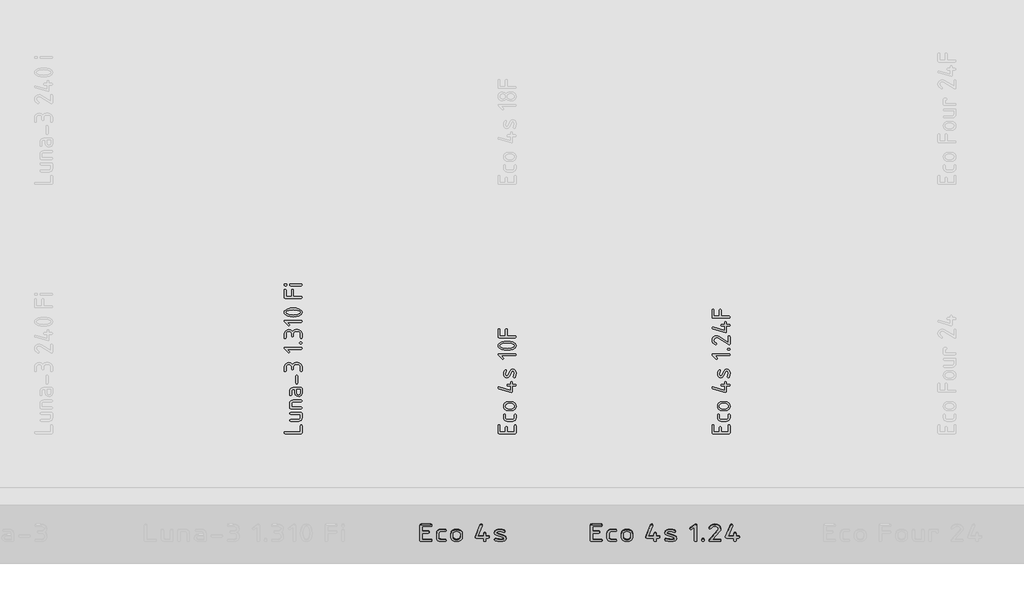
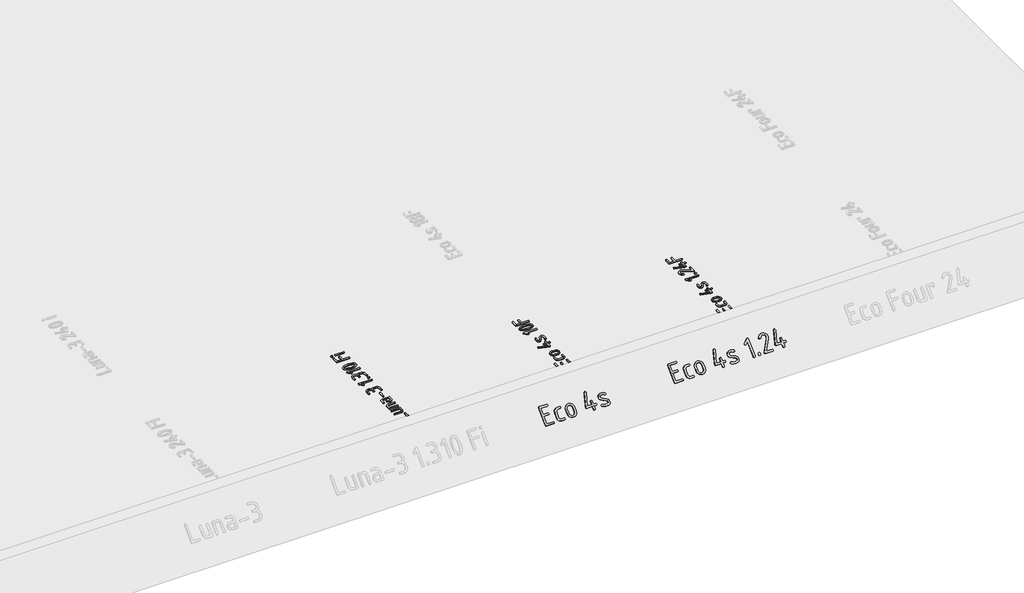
# One storey, part 6 of 37: 5 proxies.
"""IFC4 building model written with IfcOpenShell, lengths in millimetres."""

from ifc_helpers import new_model, si_unit, frame, origin, origin_with_axes, place, context, project, spatial, polyline, outline, extrude, element, save

model = new_model("IFC4")

# Units and contexts
model_context = context("Model", 3, world=origin())
ifc_project = project(units=[si_unit("LENGTHUNIT", "METRE", prefix="MILLI")], contexts=[model_context])

# Site, building, storey
site = spatial("IfcSite", under=ifc_project)
building = spatial("IfcBuilding", under=site)
storey = spatial("IfcBuildingStorey", under=building, Name="01_Стартовый вид_Площадка", Elevation=0.0)

# Proxies
placement = place(None, origin())
element("IfcBuildingElementProxy", 1, Name="150 мм", ObjectType="150 мм", at=placement, inside=storey, context=model_context, shape_type="SweptSolid", body=[
    extrude(outline(polyline([(15186.8818775, -17138.8871108), (15181.2187379, -17136.9694339), (15179.3310247, -17131.2164032), (15181.20875, -17125.4633725), (15186.8419259, -17123.5456956), (15314.846859, -17123.5456956), (15314.846859, -17071.0492905), (15316.7645359, -17065.4161146), (15322.5175666, -17063.5383893), (15328.2705973, -17065.4161146), (15330.1882742, -17071.0492905), (15330.1882742, -17131.2164032), (15328.300561, -17136.9694339), (15322.6374214, -17138.8871108), (15186.8818775, -17138.8871108)])), origin_with_axes(), (0.0, 0.0, 1.0), 10.0),
    extrude(outline(polyline([(15232.8262199, -16959.9039335), (15322.7173246, -16959.9039335), (15328.3205368, -16961.761683), (15330.1882742, -16967.3349315), (15330.1882742, -17004.4100182), (15328.0208998, -17015.9060917), (15321.5187765, -17025.4645125), (15311.8604767, -17031.9067083), (15300.2245726, -17034.0541069), (15232.8262199, -17034.0541069), (15227.2230077, -17032.13643), (15225.3552703, -17026.3833993), (15227.2230077, -17020.6303686), (15232.8262199, -17018.7126917), (15299.9449114, -17018.7126917), (15310.4322069, -17014.4378703), (15314.846859, -17004.2102602), (15314.846859, -16975.2453487), (15232.8262199, -16975.2453487), (15227.2230077, -16973.3276718), (15225.3552703, -16967.5746411), (15227.2230077, -16961.8216104), (15232.8262199, -16959.9039335)])), origin_with_axes(), (0.0, 0.0, 1.0), 10.0),
    extrude(outline(polyline([(15322.7173246, -16929.2211031), (15232.8262199, -16929.2211031), (15227.2230077, -16927.3633536), (15225.3552703, -16921.7901051), (15225.3552703, -16884.7150184), (15227.5226447, -16873.2189449), (15234.024768, -16863.6605241), (15243.6830678, -16857.2183282), (15255.3189719, -16855.0709296), (15322.7173246, -16855.0709296), (15328.3205368, -16856.9886065), (15330.1882742, -16862.7416372), (15328.3205368, -16868.4946679), (15322.7173246, -16870.4123448), (15255.5986331, -16870.4123448), (15244.9914827, -16874.5872872), (15240.6966855, -16884.9147764), (15240.6966855, -16913.8796879), (15322.7173246, -16913.8796879), (15328.3205368, -16915.7973648), (15330.1882742, -16921.5503955), (15328.3205368, -16927.3034262), (15322.7173246, -16929.2211031)])), origin_with_axes(), (0.0, 0.0, 1.0), 10.0),
    extrude(outline(polyline([(15330.1882742, -16795.5829941), (15327.9659663, -16807.1989224), (15321.2990427, -16816.877198), (15311.4060272, -16823.409285), (15299.5054438, -16825.5866473), (15284.0441738, -16821.5914871), (15272.6280035, -16810.8345182), (15268.8226134, -16795.5829941), (15268.8226134, -16765.579341), (15254.7596494, -16765.579341), (15244.7517731, -16769.894114), (15240.6966855, -16780.5611918), (15240.6966855, -16810.5648449), (15238.7790086, -16816.1980208), (15233.0259779, -16818.0757461), (15227.2729472, -16816.1980208), (15225.3552703, -16810.5648449), (15225.3552703, -16780.5611918), (15227.5226447, -16768.8803421), (15234.024768, -16759.0872056), (15243.6830678, -16752.4502457), (15255.3189719, -16750.2379258), (15322.7173246, -16750.2379258), (15328.3205368, -16752.1556027), (15330.1882742, -16757.9086334), (15330.1882742, -16795.5829941)]), holes=[polyline([(15284.1640286, -16765.579341), (15284.1640286, -16795.5829941), (15288.638608, -16806.1901445), (15299.5054438, -16810.5648449), (15310.3123521, -16806.1302171), (15314.846859, -16795.5829941), (15314.846859, -16765.579341), (15284.1640286, -16765.579341)])]), origin_with_axes(), (0.0, 0.0, 1.0), 10.0),
    extrude(outline(polyline([(15291.8347362, -16652.3964523), (15291.8347362, -16712.4037586), (15289.9170593, -16718.0369345), (15284.1640286, -16719.9146598), (15278.4109979, -16718.0369345), (15276.493321, -16712.4037586), (15276.493321, -16652.3964523), (15278.4109979, -16646.7632764), (15284.1640286, -16644.8855511), (15289.9170593, -16646.7632764), (15291.8347362, -16652.3964523)])), origin_with_axes(), (0.0, 0.0, 1.0), 10.0),
    extrude(outline(polyline([(15256.0381007, -16578.4060852), (15256.0381007, -16593.387936), (15254.1204238, -16599.0211119), (15248.3673931, -16600.8988372), (15242.6143624, -16599.0211119), (15240.6966855, -16593.387936), (15240.6966855, -16578.4060852), (15239.0237122, -16569.7016299), (15234.0047922, -16562.4454202), (15226.5787881, -16557.546355), (15217.6845627, -16555.9133333), (15208.8402768, -16557.5613369), (15201.4042849, -16562.5053476), (15196.3554012, -16569.7765392), (15194.6724399, -16578.4060852), (15194.6724399, -16608.4097384), (15192.754763, -16614.0429143), (15187.0017323, -16615.9206396), (15181.2487016, -16614.0429143), (15179.3310247, -16608.4097384), (15179.3310247, -16578.4060852), (15182.1476127, -16563.9386113), (15190.5973765, -16551.6984393), (15203.002349, -16543.3535484), (15217.6845627, -16540.5719181), (15234.8837274, -16544.3273687), (15248.3673931, -16555.5937205), (15261.4415549, -16544.3273687), (15278.1313367, -16540.5719181), (15292.9933326, -16540.5719181), (15307.3059941, -16543.3685302), (15319.3214384, -16551.7583667), (15327.4715652, -16564.0135206), (15330.1882742, -16578.4060852), (15330.1882742, -16608.4097384), (15328.2705973, -16614.0429143), (15322.5175666, -16615.9206396), (15316.7645359, -16614.0429143), (15314.846859, -16608.4097384), (15314.846859, -16578.4060852), (15313.2438009, -16569.7016299), (15308.4346268, -16562.4454202), (15301.3182477, -16557.546355), (15292.7935746, -16555.9133333), (15278.0913851, -16555.9133333), (15269.6166515, -16557.5613369), (15262.4902844, -16562.5053476), (15257.6511466, -16569.7765392), (15256.0381007, -16578.4060852)])), origin_with_axes(), (0.0, 0.0, 1.0), 10.0),
    extrude(outline(polyline([(15205.0598565, -16428.0682066), (15222.3589002, -16445.3272987), (15224.5162867, -16450.5609586), (15222.6385614, -16456.1941345), (15217.0053855, -16458.0718598), (15211.7717256, -16455.8745217), (15182.2874433, -16426.5500457), (15179.3310247, -16420.397499), (15181.2187379, -16414.6444683), (15186.8818775, -16412.7267914), (15322.6374214, -16412.7267914), (15328.300561, -16414.6444683), (15330.1882742, -16420.397499), (15328.300561, -16426.1505297), (15322.6374214, -16428.0682066), (15205.0598565, -16428.0682066)])), origin_with_axes(), (0.0, 0.0, 1.0), 10.0),
    extrude(outline(polyline([(15314.846859, -16382.043961), (15309.0938283, -16380.1262841), (15307.1761514, -16374.3732534), (15309.0938283, -16368.6202227), (15314.846859, -16366.7025458), (15322.5175666, -16366.7025458), (15328.2705973, -16368.6202227), (15330.1882742, -16374.3732534), (15328.2705973, -16380.1262841), (15322.5175666, -16382.043961), (15314.846859, -16382.043961)])), origin_with_axes(), (0.0, 0.0, 1.0), 10.0),
    extrude(outline(polyline([(15256.0381007, -16299.7037092), (15256.0381007, -16314.6855599), (15254.1204238, -16320.3187358), (15248.3673931, -16322.1964611), (15242.6143624, -16320.3187358), (15240.6966855, -16314.6855599), (15240.6966855, -16299.7037092), (15239.0237122, -16290.9992539), (15234.0047922, -16283.7430441), (15226.5787881, -16278.8439789), (15217.6845627, -16277.2109572), (15208.8402768, -16278.8589608), (15201.4042849, -16283.8029715), (15196.3554012, -16291.0741631), (15194.6724399, -16299.7037092), (15194.6724399, -16329.7073623), (15192.754763, -16335.3405382), (15187.0017323, -16337.2182635), (15181.2487016, -16335.3405382), (15179.3310247, -16329.7073623), (15179.3310247, -16299.7037092), (15182.1476127, -16285.2362353), (15190.5973765, -16272.9960632), (15203.002349, -16264.6511723), (15217.6845627, -16261.869542), (15234.8837274, -16265.6249926), (15248.3673931, -16276.8913444), (15261.4415549, -16265.6249926), (15278.1313367, -16261.869542), (15292.9933326, -16261.869542), (15307.3059941, -16264.6661541), (15319.3214384, -16273.0559906), (15327.4715652, -16285.3111445), (15330.1882742, -16299.7037092), (15330.1882742, -16329.7073623), (15328.2705973, -16335.3405382), (15322.5175666, -16337.2182635), (15316.7645359, -16335.3405382), (15314.846859, -16329.7073623), (15314.846859, -16299.7037092), (15313.2438009, -16290.9992539), (15308.4346268, -16283.7430441), (15301.3182477, -16278.8439789), (15292.7935746, -16277.2109572), (15278.0913851, -16277.2109572), (15269.6166515, -16278.8589608), (15262.4902844, -16283.8029715), (15257.6511466, -16291.0741631), (15256.0381007, -16299.7037092)])), origin_with_axes(), (0.0, 0.0, 1.0), 10.0),
    extrude(outline(polyline([(15205.0598565, -16200.5038812), (15222.3589002, -16217.7629733), (15224.5162867, -16222.9966332), (15222.6385614, -16228.6298091), (15217.0053855, -16230.5075344), (15211.7717256, -16228.3101962), (15182.2874433, -16198.9857203), (15179.3310247, -16192.8331736), (15181.2187379, -16187.0801429), (15186.8818775, -16185.162466), (15322.6374214, -16185.162466), (15328.300561, -16187.0801429), (15330.1882742, -16192.8331736), (15328.300561, -16198.5862043), (15322.6374214, -16200.5038812), (15205.0598565, -16200.5038812)])), origin_with_axes(), (0.0, 0.0, 1.0), 10.0),
    extrude(outline(polyline([(15254.7596494, -16080.3294621), (15279.8991951, -16081.9574899), (15301.3831691, -16086.8415733), (15322.9869979, -16099.2565336), (15328.3879551, -16107.6139094), (15330.1882742, -16117.4045489), (15328.395446, -16127.1951884), (15323.0169616, -16135.5525641), (15301.5030239, -16147.9675245), (15279.9890862, -16152.8516078), (15254.7596494, -16154.4796356), (15229.5302127, -16152.8516078), (15208.016275, -16147.9675245), (15186.5023373, -16135.5525641), (15181.1238529, -16127.1951884), (15179.3310247, -16117.4045489), (15181.1313438, -16107.6139094), (15186.532301, -16099.2565336), (15208.1361298, -16086.8415733), (15229.6201038, -16081.9574899), (15254.7596494, -16080.3294621)]), holes=[polyline([(15254.7596494, -16095.6708773), (15219.6022396, -16099.5062311), (15200.9048898, -16106.8972775), (15194.6724399, -16117.4045489), (15200.9348535, -16127.8219291), (15219.7220944, -16135.1830118), (15254.7596494, -16139.1382204), (15289.9170593, -16135.3028666), (15308.614409, -16127.9118202), (15314.846859, -16117.4045489), (15308.614409, -16106.8972775), (15289.9170593, -16099.5062311), (15254.7596494, -16095.6708773)])]), origin_with_axes(), (0.0, 0.0, 1.0), 10.0),
    extrude(outline(polyline([(15322.6374214, -15998.5085811), (15186.8818775, -15998.5085811), (15181.2187379, -15996.5909042), (15179.3310247, -15990.8378735), (15179.3310247, -15930.6707608), (15181.2487016, -15925.0375849), (15187.0017323, -15923.1598596), (15192.754763, -15925.0375849), (15194.6724399, -15930.6707608), (15194.6724399, -15983.1671659), (15240.6966855, -15983.1671659), (15240.6966855, -15930.6707608), (15242.6143624, -15925.0375849), (15248.3673931, -15923.1598596), (15254.1204238, -15925.0375849), (15256.0381007, -15930.6707608), (15256.0381007, -15983.1671659), (15322.7572762, -15983.1671659), (15328.3305247, -15985.0848428), (15330.1882742, -15990.8378735), (15328.300561, -15996.5909042), (15322.6374214, -15998.5085811)])), origin_with_axes(), (0.0, 0.0, 1.0), 10.0),
    extrude(outline(polyline([(15194.3528271, -15893.6755772), (15186.8419259, -15893.6755772), (15181.20875, -15891.7579003), (15179.3310247, -15886.0048696), (15181.20875, -15880.2518389), (15186.8419259, -15878.334162), (15194.3528271, -15878.334162), (15199.986003, -15880.2518389), (15201.8637283, -15886.0048696), (15199.986003, -15891.7579003), (15194.3528271, -15893.6755772)])), origin_with_axes(), (0.0, 0.0, 1.0), 10.0),
    extrude(outline(polyline([(15232.6664135, -15893.6755772), (15227.0632013, -15891.7579003), (15225.1954639, -15886.0048696), (15227.0632013, -15880.2518389), (15232.6664135, -15878.334162), (15322.677373, -15878.334162), (15328.3105489, -15880.2518389), (15330.1882742, -15886.0048696), (15328.3105489, -15891.7579003), (15322.677373, -15893.6755772), (15232.6664135, -15893.6755772)])), origin_with_axes(), (0.0, 0.0, 1.0), 10.0),
])
element("IfcBuildingElementProxy", 2, Name="200мм", ObjectType="200мм", at=placement, inside=storey, context=model_context, shape_type="SweptSolid", body=[
    extrude(outline(polyline([(7.9720216, 0.0), (179.4166361, -58.0553192), (185.7484839, -62.8989575), (185.6722013, -70.971688), (159.9419745, -146.956264), (155.1111501, -153.2502709), (147.0426909, -153.1613748), (140.5802352, -148.3297495), (140.5674213, -140.3955688), (163.0173005, -74.0982693), (104.8936407, -54.4161835), (88.8506906, -101.7930207), (84.03268, -108.0491867), (75.968492, -107.9476769), (69.501765, -103.1286652), (69.4761373, -95.2323254), (85.5190874, -47.8554882), (11.2499667, -22.7061563), (-11.1999125, -89.0034557), (-16.0307369, -95.2974626), (-24.0991961, -95.2085665), (-30.5616518, -90.3769412), (-30.5744657, -82.4427605), (-4.8442389, -6.4581844), (0.0, 0.0), (7.9720216, 0.0)])), frame((17757.3251043, -18038.1466026, 93.5274722), z_axis=(0.0, -0.7071067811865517, 0.7071067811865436), x_axis=(-0.32073452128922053, 0.6697497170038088, 0.6697497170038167)), (0.0, 0.0, 1.0), 10.0),
    extrude(outline(polyline([(15.150878, 0.0), (69.918334, 22.8458531), (80.4980469, 33.6657617), (80.467285, 48.8903842), (68.9008028, 76.6182523), (68.3843818, 84.4977287), (74.505091, 89.749238), (82.5432932, 90.4040175), (87.7793513, 84.493304), (99.3458335, 56.7654358), (102.6619405, 41.3096073), (99.6902547, 25.914741), (91.2197, 12.7713241), (78.0392002, 4.0698443), (22.7801153, -18.9810883), (7.3232334, -22.2254877), (-7.9764678, -18.9976632), (-21.0073016, -10.2781337), (-29.6575818, 2.9525826), (-41.224064, 30.6804508), (-41.7404849, 38.5599271), (-35.6197758, 43.8114364), (-27.5815735, 44.4662159), (-22.3455154, 38.5555025), (-10.7790332, 10.8276343), (0.0, 0.0), (15.150878, 0.0)])), frame((17920.8336944, -17959.6397171, 172.0343577), z_axis=(0.0, -0.7071067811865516, 0.7071067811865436), x_axis=(-0.3849898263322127, -0.6526035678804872, -0.6526035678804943)), (0.0, 0.0, 1.0), 10.0),
    extrude(outline(polyline([(19.5277268, -1e-07), (58.7885529, -7.3971648), (76.977393, -14.5033742), (90.8173496, -28.1486773), (98.6171829, -45.8732873), (98.6856532, -65.2174179), (91.5847543, -83.4140342), (77.9948347, -97.0679287), (60.1996699, -104.6308689), (40.4830361, -104.5546223), (1.22221, -97.1574576), (-16.96663, -90.0512481), (-30.8065866, -76.405945), (-38.6064199, -58.6813349), (-38.6748902, -39.3372044), (-31.5717163, -21.3442893), (-17.8566171, -7.6733255), (0.0, 0.0), (19.5277268, -1e-07)]), holes=[polyline([(5.5853838, -77.1644064), (44.8985577, -84.5714339), (56.5989581, -84.6144501), (67.3060997, -80.1473937), (75.5187711, -72.1612621), (79.7357612, -61.647053), (79.6340604, -50.3191558), (74.8906592, -39.8919601), (66.5432132, -31.8348129), (55.6293779, -27.6170623), (16.316204, -20.2100347), (4.5148066, -20.1276624), (-6.1812393, -24.5358276), (-14.3509513, -32.5097259), (-18.5733473, -43.1245527), (-18.4716465, -54.4524499), (-13.7282453, -64.8796458), (-5.3677123, -72.9392586), (5.5853838, -77.1644064)])]), frame((18017.4832784, -18018.2020682, 113.4720067), z_axis=(0.0, -0.7071067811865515, 0.7071067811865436), x_axis=(-0.1851531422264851, 0.6948806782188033, 0.6948806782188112)), (0.0, 0.0, 1.0), 10.0),
    extrude(outline(polyline([(7.9171849, 0.0), (10.3934109, -1.1623101), (130.7514682, -83.4504991), (134.8406101, -88.4913876), (134.6089902, -94.9556849), (129.871313, -101.2936442), (121.9920295, -101.306278), (119.4147331, -99.941827), (10.4776362, -25.334992), (-4.3291842, -69.7554535), (24.1726819, -79.2560755), (30.4516834, -84.0442879), (30.3885143, -92.1088673), (25.6003019, -98.5984322), (17.7041733, -98.6616013), (-10.7976929, -89.1609793), (-17.1314409, -108.1622233), (-21.9196533, -114.4412248), (-29.9842326, -114.3780558), (-36.4737976, -109.5898434), (-36.5369666, -101.6937147), (-30.2032186, -82.6924707), (-59.3115073, -72.9897078), (-65.7800159, -68.1383263), (-65.7800159, -60.0526905), (-60.9286345, -53.5841819), (-52.8429987, -53.584182), (-23.73471, -63.2869449), (-4.750311, -6.333748), (0.0, 0.0), (7.9171849, 0.0)])), frame((18222.4682901, -18009.2279693, 122.4461055), z_axis=(0.0, -0.7071067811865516, 0.7071067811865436), x_axis=(-0.31622776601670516, 0.6708203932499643, 0.6708203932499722)), (0.0, 0.0, 1.0), 10.0),
    extrude(outline(polyline([(6.7166797, 0.0), (14.145986, 3.991335), (17.9066814, 11.4469663), (29.6493207, 67.1668895), (38.4046143, 84.8875475), (55.5030994, 94.2526303), (71.1497951, 94.3948956), (84.6580761, 86.6684244), (93.8591896, 74.7388044), (99.8206792, 58.8938008), (102.0852659, 37.6922648), (98.3024967, 17.4558512), (90.8058995, 10.1994258), (83.2482824, 11.3993597), (78.703742, 17.5560284), (78.7833768, 22.4004929), (81.562566, 38.3210255), (79.9479029, 54.0472767), (71.9400431, 71.257438), (66.3413127, 74.6828079), (59.679382, 74.6550374), (52.4154312, 70.7725664), (48.7367866, 63.5425582), (36.8363563, 7.345513), (28.0526652, -10.258703), (10.9447143, -19.5849718), (-5.3034403, -19.8465044), (-18.8565291, -12.0487157), (-27.780888, 0.2636712), (-33.8184082, 16.9262908), (-37.3451105, 43.3030289), (-34.2943684, 66.5410597), (-26.7308633, 74.1976129), (-19.1732461, 72.997679), (-14.6287057, 66.8410102), (-14.457132, 62.9899205), (-16.5086244, 47.7951572), (-13.8067992, 21.2035426), (-5.6594731, 3.5339237), (0.0, 0.0), (6.7166797, 0.0)])), frame((18460.0005402, -18019.5298204, 112.1442544), z_axis=(0.0, -0.7071067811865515, 0.7071067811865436), x_axis=(0.2369333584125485, 0.6869725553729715, 0.686972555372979)), (0.0, 0.0, 1.0), 10.0),
    extrude(outline(polyline([(156.7700865, 0.0), (133.7046949, 23.0121228), (130.8281796, 29.9903359), (133.3318133, 37.5012371), (140.8427146, 40.0048708), (147.8209277, 37.0750867), (187.1333041, -2.0242145), (191.0751955, -10.2276102), (188.5582447, -17.8983178), (181.0073918, -20.4552203), (0.0, -20.4552203), (-7.5508528, -17.8983178), (-10.0678037, -10.2276102), (-7.5508528, -2.5569026), (0.0, 0.0), (156.7700865, 0.0)])), frame((18630.9334697, -18032.8073434, 98.8667315), z_axis=(0.0, -0.7071067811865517, 0.7071067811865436), x_axis=(0.0, 0.7071067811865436, 0.7071067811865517)), (0.0, 0.0, 1.0), 10.0),
    extrude(outline(polyline([(10.2276101, 0.0), (17.8983177, -2.5569026), (20.4552203, -10.2276102), (17.8983177, -17.8983178), (10.2276101, -20.4552203), (0.0, -20.4552203), (-7.6707076, -17.8983178), (-10.2276101, -10.2276102), (-7.6707076, -2.5569026), (0.0, 0.0), (10.2276101, 0.0)])), frame((18692.2991305, -18032.6943432, 98.9797317), z_axis=(0.0, -0.7071067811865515, 0.7071067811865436), x_axis=(0.0, 0.7071067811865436, 0.7071067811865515)), (0.0, 0.0, 1.0), 10.0),
    extrude(outline(polyline([(14.6692355, -1e-07), (33.1062034, -6.6022305), (47.3681923, -19.9776427), (55.6930957, -37.6934159), (56.3188068, -57.3167297), (51.8407371, -71.1866425), (42.8424616, -84.4831553), (-35.1387131, -175.0883818), (26.2241519, -184.7023202), (33.2487616, -188.3909847), (34.5349087, -196.3567717), (30.8741353, -203.5475071), (23.0579835, -204.9110166), (-55.9874908, -192.5266809), (-63.0203458, -188.8906432), (-64.3312285, -181.0827367), (-61.7484404, -175.6102613), (28.9539759, -70.2294251), (36.4734082, -54.5849108), (36.0907364, -42.8313549), (31.0839534, -32.2000358), (22.5293125, -24.1671006), (11.5030671, -20.2086965), (-5.5868318, -23.8935588), (-23.3858748, -40.1921121), (-32.6617347, -43.6454248), (-39.6945896, -40.0093871), (-41.0054723, -32.2014805), (-39.423307, -28.2976301), (-27.0462712, -14.148815), (-13.9051688, -4.7162717), (0.0, 0.0), (14.6692355, -1e-07)])), frame((18788.7123342, -17899.3023213, 232.3717535), z_axis=(0.0, -0.7071067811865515, 0.7071067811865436), x_axis=(0.98794812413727, 0.10944976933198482, 0.10944976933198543)), (0.0, 0.0, 1.0), 10.0),
    extrude(outline(polyline([(7.9171849, 0.0), (10.3934109, -1.1623101), (130.7514682, -83.4504991), (134.8406101, -88.4913877), (134.6089902, -94.9556849), (129.871313, -101.2936442), (121.9920295, -101.306278), (119.4147331, -99.941827), (10.4776362, -25.334992), (-4.3291842, -69.7554535), (24.1726819, -79.2560755), (30.4516833, -84.044288), (30.3885143, -92.1088674), (25.6003019, -98.5984323), (17.7041733, -98.6616013), (-10.7976929, -89.1609793), (-17.1314409, -108.1622233), (-21.9196533, -114.4412248), (-29.9842326, -114.3780558), (-36.4737976, -109.5898434), (-36.5369666, -101.6937147), (-30.2032186, -82.6924707), (-59.3115073, -72.9897078), (-65.780016, -68.1383264), (-65.7800159, -60.0526906), (-60.9286345, -53.584182), (-52.8429987, -53.584182), (-23.73471, -63.2869449), (-4.750311, -6.333748), (0.0, 0.0), (7.9171849, 0.0)])), frame((18894.0813554, -18009.2279693, 122.4461055), z_axis=(0.0, -0.7071067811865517, 0.7071067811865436), x_axis=(-0.31622776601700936, 0.6708203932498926, 0.6708203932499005)), (0.0, 0.0, 1.0), 10.0),
])
element("IfcBuildingElementProxy", 3, Name="150 мм", ObjectType="150 мм", at=placement, inside=storey, context=model_context, shape_type="SweptSolid", body=[
    extrude(outline(polyline([(18922.6374214, -17138.8871108), (18786.8818775, -17138.8871108), (18781.2187379, -17136.9694339), (18779.3310247, -17131.2164032), (18779.3310247, -17071.0492905), (18781.2487016, -17065.4161146), (18787.0017323, -17063.5383893), (18792.754763, -17065.4161146), (18794.6724399, -17071.0492905), (18794.6724399, -17123.5456956), (18840.6966855, -17123.5456956), (18840.6966855, -17086.0311412), (18842.6143624, -17080.427929), (18848.3673931, -17078.5601916), (18854.1204238, -17080.427929), (18856.0381007, -17086.0311412), (18856.0381007, -17123.5456956), (18914.846859, -17123.5456956), (18914.846859, -17071.0492905), (18916.7645359, -17065.4161146), (18922.5175666, -17063.5383893), (18928.2705973, -17065.4161146), (18930.1882742, -17071.0492905), (18930.1882742, -17131.2164032), (18928.300561, -17136.9694339), (18922.6374214, -17138.8871108)])), origin_with_axes(), (0.0, 0.0, 1.0), 10.0),
    extrude(outline(polyline([(18855.5187299, -17018.7126917), (18900.0248146, -17018.7126917), (18910.4721585, -17014.2780639), (18914.846859, -17003.730841), (18914.846859, -16981.1981374), (18916.7645359, -16975.5949252), (18922.5175666, -16973.7271878), (18928.2705973, -16975.5949252), (18930.1882742, -16981.1981374), (18930.1882742, -17003.730841), (18928.0208998, -17015.3867209), (18921.5187765, -17025.1848513), (18911.8604767, -17031.836793), (18900.2245726, -17034.0541069), (18855.3189719, -17034.0541069), (18843.6830678, -17031.836793), (18834.024768, -17025.1848513), (18827.5226447, -17015.3867209), (18825.3552703, -17003.730841), (18825.3552703, -16981.1981374), (18827.2729472, -16975.5949252), (18833.0259779, -16973.7271878), (18838.7790086, -16975.5949252), (18840.6966855, -16981.1981374), (18840.6966855, -17003.730841), (18845.0314343, -17014.3379913), (18855.5187299, -17018.7126917)])), origin_with_axes(), (0.0, 0.0, 1.0), 10.0),
    extrude(outline(polyline([(18892.753623, -16944.5625183), (18862.7899215, -16944.5625183), (18848.3973568, -16941.8508033), (18836.3020093, -16933.7156583), (18828.0919551, -16921.7351716), (18825.3552703, -16907.4874315), (18828.0619914, -16893.089873), (18836.1821545, -16881.13935), (18848.2475383, -16873.0940961), (18862.7899215, -16870.4123448), (18892.753623, -16870.4123448), (18907.1461877, -16873.1240598), (18919.2415352, -16881.2592048), (18927.4515894, -16893.2396915), (18930.1882742, -16907.4874315), (18927.4515894, -16921.7351716), (18919.2415352, -16933.7156583), (18907.1461877, -16941.8508033), (18892.753623, -16944.5625183)]), holes=[polyline([(18892.3141554, -16885.75376), (18862.3105022, -16885.75376), (18853.6809562, -16887.3468302), (18846.4097646, -16892.1260406), (18841.4657539, -16899.1525286), (18839.8177503, -16907.4874315), (18841.4657539, -16915.8223345), (18846.4097646, -16922.8488225), (18853.6809562, -16927.6280329), (18862.3105022, -16929.2211031), (18892.3141554, -16929.2211031), (18901.0236047, -16927.6430148), (18908.2947962, -16922.90875), (18913.2088433, -16915.8972438), (18914.846859, -16907.4874315), (18913.1988554, -16899.1525286), (18908.2548446, -16892.1260406), (18900.9736651, -16887.3468302), (18892.3141554, -16885.75376)])]), origin_with_axes(), (0.0, 0.0, 1.0), 10.0),
    extrude(outline(polyline([(18891.9945426, -16789.9897698), (18889.9570109, -16789.7500602), (18784.8043942, -16759.7464071), (18780.6993671, -16757.1295771), (18779.3310247, -16752.4752155), (18781.1987621, -16746.8420396), (18786.8019743, -16744.9643143), (18788.9593608, -16745.3238787), (18884.1640286, -16772.5708713), (18884.1640286, -16737.4534131), (18861.631325, -16737.4534131), (18856.0281128, -16735.5357362), (18854.1603754, -16729.7827055), (18856.0281128, -16724.0296748), (18861.631325, -16722.1119979), (18884.1640286, -16722.1119979), (18884.1640286, -16707.0901955), (18886.0817055, -16701.4869833), (18891.8347362, -16699.6192459), (18897.5877669, -16701.4869833), (18899.5054438, -16707.0901955), (18899.5054438, -16722.1119979), (18922.5175666, -16722.1119979), (18928.2705973, -16724.0296748), (18930.1882742, -16729.7827055), (18928.2705973, -16735.5357362), (18922.5175666, -16737.4534131), (18899.5054438, -16737.4534131), (18899.5054438, -16782.4788687), (18897.6277185, -16788.1120445), (18891.9945426, -16789.9897698)])), origin_with_axes(), (0.0, 0.0, 1.0), 10.0),
    extrude(outline(polyline([(18903.6604104, -16608.7693028), (18897.5378274, -16610.357379), (18893.4727519, -16615.1216075), (18875.0151117, -16653.634952), (18865.4866546, -16664.9911948), (18851.3637633, -16668.7766091), (18839.9376051, -16666.0998518), (18831.4678654, -16658.0695798), (18826.8834191, -16647.7420906), (18825.3552703, -16635.1373602), (18827.4727052, -16619.2865621), (18833.82501, -16605.2136102), (18840.5768307, -16601.2584016), (18845.870418, -16603.4757155), (18848.0877319, -16608.7693028), (18847.1688451, -16612.2850438), (18842.3147254, -16623.3915892), (18840.6966855, -16635.1373602), (18843.4733219, -16649.1004451), (18851.8032309, -16653.7548068), (18857.7859833, -16652.2166701), (18861.7511798, -16647.60226), (18880.408578, -16608.7693028), (18889.9370351, -16597.502951), (18904.0599264, -16593.7475004), (18915.945528, -16596.4442336), (18924.4352435, -16604.534433), (18928.7500165, -16615.0916438), (18930.1882742, -16628.3056362), (18928.0708393, -16648.1515946), (18921.7185345, -16664.5417393), (18914.846859, -16668.7766091), (18909.5532717, -16666.5592952), (18907.3359578, -16661.2657079), (18907.8952802, -16658.4291442), (18912.0901984, -16647.7221148), (18914.846859, -16627.8661686), (18912.0502468, -16613.5435193), (18903.6604104, -16608.7693028)])), origin_with_axes(), (0.0, 0.0, 1.0), 10.0),
    extrude(outline(polyline([(18805.0598565, -16481.7631598), (18822.3589002, -16499.0222519), (18824.5162867, -16504.2559118), (18822.6385614, -16509.8890877), (18817.0053855, -16511.766813), (18811.7717256, -16509.5694749), (18782.2874433, -16480.2449989), (18779.3310247, -16474.0924522), (18781.2187379, -16468.3394215), (18786.8818775, -16466.4217446), (18922.6374214, -16466.4217446), (18928.300561, -16468.3394215), (18930.1882742, -16474.0924522), (18928.300561, -16479.8454829), (18922.6374214, -16481.7631598), (18805.0598565, -16481.7631598)])), origin_with_axes(), (0.0, 0.0, 1.0), 10.0),
    extrude(outline(polyline([(18914.846859, -16435.7389142), (18909.0938283, -16433.8212373), (18907.1761514, -16428.0682066), (18909.0938283, -16422.3151759), (18914.846859, -16420.397499), (18922.5175666, -16420.397499), (18928.2705973, -16422.3151759), (18930.1882742, -16428.0682066), (18928.2705973, -16433.8212373), (18922.5175666, -16435.7389142), (18914.846859, -16435.7389142)])), origin_with_axes(), (0.0, 0.0, 1.0), 10.0),
    extrude(outline(polyline([(18779.3310247, -16352.5596787), (18782.0826913, -16338.1321564), (18790.3376911, -16326.0118391), (18802.49796, -16317.786803), (18816.9654339, -16315.0451244), (18827.7623543, -16316.7530553), (18838.6591538, -16321.8768483), (18914.846859, -16369.1395936), (18914.846859, -16322.5560255), (18916.7645359, -16316.9228496), (18922.5175666, -16315.0451244), (18928.2705973, -16316.9228496), (18930.1882742, -16322.5560255), (18930.1882742, -16382.5633319), (18928.3105489, -16388.1965078), (18922.677373, -16390.0742331), (18918.3226484, -16388.7957818), (18829.7099949, -16333.8223773), (18817.2450951, -16330.0669267), (18808.5805914, -16331.7149303), (18801.2844301, -16336.6589411), (18796.3254375, -16343.9301327), (18794.6724399, -16352.5596787), (18799.386729, -16364.7948568), (18813.5295961, -16376.0911723), (18817.1651919, -16382.5633319), (18815.2874666, -16388.1965078), (18809.6542907, -16390.0742331), (18806.5780173, -16389.3551042), (18786.1427729, -16373.1846933), (18781.0339618, -16363.4290114), (18779.3310247, -16352.5596787)])), origin_with_axes(), (0.0, 0.0, 1.0), 10.0),
    extrude(outline(polyline([(18891.9945426, -16286.2799709), (18889.9570109, -16286.0402612), (18784.8043942, -16256.0366081), (18780.6993671, -16253.4197781), (18779.3310247, -16248.7654165), (18781.1987621, -16243.1322406), (18786.8019743, -16241.2545153), (18788.9593608, -16241.6140797), (18884.1640286, -16268.8610723), (18884.1640286, -16233.7436141), (18861.631325, -16233.7436141), (18856.0281128, -16231.8259372), (18854.1603754, -16226.0729065), (18856.0281128, -16220.3198758), (18861.631325, -16218.4021989), (18884.1640286, -16218.4021989), (18884.1640286, -16203.3803965), (18886.0817055, -16197.7771844), (18891.8347362, -16195.909447), (18897.5877669, -16197.7771844), (18899.5054438, -16203.3803965), (18899.5054438, -16218.4021989), (18922.5175666, -16218.4021989), (18928.2705973, -16220.3198758), (18930.1882742, -16226.0729065), (18928.2705973, -16231.8259372), (18922.5175666, -16233.7436141), (18899.5054438, -16233.7436141), (18899.5054438, -16278.7690697), (18897.6277185, -16284.4022456), (18891.9945426, -16286.2799709)])), origin_with_axes(), (0.0, 0.0, 1.0), 10.0),
    extrude(outline(polyline([(18922.6374214, -16164.7072457), (18786.8818775, -16164.7072457), (18781.2187379, -16162.7895688), (18779.3310247, -16157.0365381), (18779.3310247, -16096.8694254), (18781.2487016, -16091.2362495), (18787.0017323, -16089.3585242), (18792.754763, -16091.2362495), (18794.6724399, -16096.8694254), (18794.6724399, -16149.3658305), (18840.6966855, -16149.3658305), (18840.6966855, -16096.8694254), (18842.6143624, -16091.2362495), (18848.3673931, -16089.3585242), (18854.1204238, -16091.2362495), (18856.0381007, -16096.8694254), (18856.0381007, -16149.3658305), (18922.7572762, -16149.3658305), (18928.3305247, -16151.2835074), (18930.1882742, -16157.0365381), (18928.300561, -16162.7895688), (18922.6374214, -16164.7072457)])), origin_with_axes(), (0.0, 0.0, 1.0), 10.0),
])
element("IfcBuildingElementProxy", 4, Name="200мм", ObjectType="200мм", at=placement, inside=storey, context=model_context, shape_type="SweptSolid", body=[
    extrude(outline(polyline([(7.9720216, 0.0), (179.4166361, -58.0553192), (185.7484839, -62.8989575), (185.6722013, -70.971688), (159.9419745, -146.956264), (155.1111501, -153.2502709), (147.0426909, -153.1613748), (140.5802352, -148.3297495), (140.5674213, -140.3955688), (163.0173005, -74.0982694), (104.8936407, -54.4161836), (88.8506905, -101.7930208), (84.03268, -108.0491868), (75.968492, -107.9476769), (69.501765, -103.1286653), (69.4761372, -95.2323255), (85.5190874, -47.8554883), (11.2499666, -22.7061564), (-11.1999125, -89.0034557), (-16.0307369, -95.2974626), (-24.0991961, -95.2085665), (-30.5616518, -90.3769412), (-30.5744657, -82.4427605), (-4.8442389, -6.4581844), (0.0, 0.0), (7.9720216, 0.0)])), frame((16323.2429677, -18038.1466026, 93.5274722), z_axis=(0.0, -0.7071067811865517, 0.7071067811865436), x_axis=(-0.32073452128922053, 0.6697497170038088, 0.6697497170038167)), (0.0, 0.0, 1.0), 10.0),
    extrude(outline(polyline([(15.150878, 0.0), (69.918334, 22.8458531), (80.4980469, 33.6657617), (80.467285, 48.8903842), (68.9008028, 76.6182523), (68.3843818, 84.4977287), (74.5050909, 89.7492381), (82.5432932, 90.4040175), (87.7793513, 84.493304), (99.3458335, 56.7654358), (102.6619404, 41.3096074), (99.6902547, 25.914741), (91.2197, 12.7713241), (78.0392002, 4.0698443), (22.7801153, -18.9810883), (7.3232334, -22.2254877), (-7.9764678, -18.9976632), (-21.0073017, -10.2781336), (-29.6575818, 2.9525826), (-41.224064, 30.6804508), (-41.7404849, 38.5599271), (-35.6197759, 43.8114365), (-27.5815735, 44.4662159), (-22.3455154, 38.5555025), (-10.7790332, 10.8276343), (0.0, 0.0), (15.150878, 0.0)])), frame((16486.7515578, -17959.6397171, 172.0343577), z_axis=(0.0, -0.7071067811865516, 0.7071067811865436), x_axis=(-0.3849898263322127, -0.6526035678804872, -0.6526035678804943)), (0.0, 0.0, 1.0), 10.0),
    extrude(outline(polyline([(19.5277268, 0.0), (58.788553, -7.3971647), (76.977393, -14.5033742), (90.8173496, -28.1486772), (98.6171829, -45.8732873), (98.6856532, -65.2174178), (91.5847544, -83.4140341), (77.9948347, -97.0679287), (60.1996699, -104.6308688), (40.4830361, -104.5546222), (1.22221, -97.1574575), (-16.96663, -90.051248), (-30.8065866, -76.405945), (-38.6064199, -58.6813348), (-38.6748902, -39.3372043), (-31.5717163, -21.3442893), (-17.856617, -7.6733254), (0.0, 0.0), (19.5277268, 0.0)]), holes=[polyline([(5.5853838, -77.1644064), (44.8985577, -84.5714339), (56.5989581, -84.61445), (67.3060997, -80.1473936), (75.5187711, -72.161262), (79.7357612, -61.6470529), (79.6340604, -50.3191558), (74.8906592, -39.89196), (66.5432132, -31.8348129), (55.6293779, -27.6170622), (16.316204, -20.2100346), (4.5148066, -20.1276624), (-6.1812393, -24.5358276), (-14.3509513, -32.5097259), (-18.5733473, -43.1245526), (-18.4716465, -54.4524498), (-13.7282453, -64.8796457), (-5.3677123, -72.9392585), (5.5853838, -77.1644064)])]), frame((16583.4011419, -18018.2020682, 113.4720067), z_axis=(0.0, -0.7071067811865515, 0.7071067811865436), x_axis=(-0.1851531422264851, 0.6948806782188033, 0.6948806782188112)), (0.0, 0.0, 1.0), 10.0),
    extrude(outline(polyline([(7.9171849, 0.0), (10.3934109, -1.1623101), (130.7514682, -83.4504991), (134.8406101, -88.4913877), (134.6089902, -94.9556849), (129.871313, -101.2936442), (121.9920295, -101.306278), (119.4147331, -99.941827), (10.4776362, -25.334992), (-4.3291842, -69.7554535), (24.1726819, -79.2560755), (30.4516833, -84.044288), (30.3885143, -92.1088674), (25.6003019, -98.5984323), (17.7041733, -98.6616013), (-10.7976929, -89.1609793), (-17.1314409, -108.1622233), (-21.9196533, -114.4412248), (-29.9842326, -114.3780559), (-36.4737976, -109.5898434), (-36.5369666, -101.6937147), (-30.2032186, -82.6924707), (-59.3115073, -72.9897078), (-65.780016, -68.1383264), (-65.7800159, -60.0526906), (-60.9286345, -53.584182), (-52.8429987, -53.584182), (-23.73471, -63.2869449), (-4.750311, -6.333748), (0.0, 0.0), (7.9171849, 0.0)])), frame((16788.3861535, -18009.2279693, 122.4461055), z_axis=(0.0, -0.7071067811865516, 0.7071067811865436), x_axis=(-0.31622776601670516, 0.6708203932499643, 0.6708203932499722)), (0.0, 0.0, 1.0), 10.0),
    extrude(outline(polyline([(6.7166797, 0.0), (14.145986, 3.9913351), (17.9066814, 11.4469664), (29.6493207, 67.1668896), (38.4046143, 84.8875475), (55.5030993, 94.2526304), (71.1497951, 94.3948957), (84.6580761, 86.6684245), (93.8591896, 74.7388044), (99.8206792, 58.8938009), (102.0852659, 37.6922649), (98.3024966, 17.4558513), (90.8058995, 10.1994258), (83.2482824, 11.3993598), (78.703742, 17.5560284), (78.7833768, 22.400493), (81.562566, 38.3210256), (79.9479028, 54.0472768), (71.9400431, 71.257438), (66.3413127, 74.682808), (59.6793819, 74.6550375), (52.4154311, 70.7725665), (48.7367866, 63.5425582), (36.8363563, 7.345513), (28.0526652, -10.2587029), (10.9447143, -19.5849717), (-5.3034403, -19.8465043), (-18.8565292, -12.0487156), (-27.780888, 0.2636713), (-33.8184082, 16.9262909), (-37.3451105, 43.303029), (-34.2943684, 66.5410598), (-26.7308633, 74.197613), (-19.1732462, 72.9976791), (-14.6287058, 66.8410103), (-14.457132, 62.9899205), (-16.5086244, 47.7951572), (-13.8067992, 21.2035427), (-5.6594732, 3.5339238), (0.0, 0.0), (6.7166797, 0.0)])), frame((17025.9184037, -18019.5298204, 112.1442544), z_axis=(0.0, -0.7071067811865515, 0.7071067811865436), x_axis=(0.2369333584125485, 0.6869725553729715, 0.686972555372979)), (0.0, 0.0, 1.0), 10.0),
])
element("IfcBuildingElementProxy", 5, Name="150 мм", ObjectType="150 мм", at=placement, inside=storey, context=model_context, shape_type="SweptSolid", body=[
    extrude(outline(polyline([(17122.6374214, -17138.8871108), (16986.8818775, -17138.8871108), (16981.2187379, -17136.9694339), (16979.3310247, -17131.2164032), (16979.3310247, -17071.0492905), (16981.2487016, -17065.4161146), (16987.0017323, -17063.5383893), (16992.754763, -17065.4161146), (16994.6724399, -17071.0492905), (16994.6724399, -17123.5456956), (17040.6966855, -17123.5456956), (17040.6966855, -17086.0311412), (17042.6143624, -17080.427929), (17048.3673931, -17078.5601916), (17054.1204238, -17080.427929), (17056.0381007, -17086.0311412), (17056.0381007, -17123.5456956), (17114.846859, -17123.5456956), (17114.846859, -17071.0492905), (17116.7645359, -17065.4161146), (17122.5175666, -17063.5383893), (17128.2705973, -17065.4161146), (17130.1882742, -17071.0492905), (17130.1882742, -17131.2164032), (17128.300561, -17136.9694339), (17122.6374214, -17138.8871108)])), origin_with_axes(), (0.0, 0.0, 1.0), 10.0),
    extrude(outline(polyline([(17055.5187299, -17018.7126917), (17100.0248146, -17018.7126917), (17110.4721585, -17014.2780639), (17114.846859, -17003.730841), (17114.846859, -16981.1981374), (17116.7645359, -16975.5949252), (17122.5175666, -16973.7271878), (17128.2705973, -16975.5949252), (17130.1882742, -16981.1981374), (17130.1882742, -17003.730841), (17128.0208998, -17015.3867209), (17121.5187765, -17025.1848513), (17111.8604767, -17031.836793), (17100.2245726, -17034.0541069), (17055.3189719, -17034.0541069), (17043.6830678, -17031.836793), (17034.024768, -17025.1848513), (17027.5226447, -17015.3867209), (17025.3552703, -17003.730841), (17025.3552703, -16981.1981374), (17027.2729472, -16975.5949252), (17033.0259779, -16973.7271878), (17038.7790086, -16975.5949252), (17040.6966855, -16981.1981374), (17040.6966855, -17003.730841), (17045.0314343, -17014.3379913), (17055.5187299, -17018.7126917)])), origin_with_axes(), (0.0, 0.0, 1.0), 10.0),
    extrude(outline(polyline([(17092.753623, -16944.5625183), (17062.7899215, -16944.5625183), (17048.3973568, -16941.8508033), (17036.3020093, -16933.7156583), (17028.0919551, -16921.7351716), (17025.3552703, -16907.4874315), (17028.0619914, -16893.089873), (17036.1821545, -16881.13935), (17048.2475383, -16873.0940961), (17062.7899215, -16870.4123448), (17092.753623, -16870.4123448), (17107.1461877, -16873.1240598), (17119.2415352, -16881.2592048), (17127.4515894, -16893.2396915), (17130.1882742, -16907.4874315), (17127.4515894, -16921.7351716), (17119.2415352, -16933.7156583), (17107.1461877, -16941.8508033), (17092.753623, -16944.5625183)]), holes=[polyline([(17092.3141554, -16885.75376), (17062.3105022, -16885.75376), (17053.6809562, -16887.3468302), (17046.4097646, -16892.1260406), (17041.4657539, -16899.1525286), (17039.8177503, -16907.4874315), (17041.4657539, -16915.8223345), (17046.4097646, -16922.8488225), (17053.6809562, -16927.6280329), (17062.3105022, -16929.2211031), (17092.3141554, -16929.2211031), (17101.0236047, -16927.6430148), (17108.2947962, -16922.90875), (17113.2088433, -16915.8972438), (17114.846859, -16907.4874315), (17113.1988554, -16899.1525286), (17108.2548446, -16892.1260406), (17100.9736651, -16887.3468302), (17092.3141554, -16885.75376)])]), origin_with_axes(), (0.0, 0.0, 1.0), 10.0),
    extrude(outline(polyline([(17091.9945426, -16789.9897698), (17089.9570109, -16789.7500602), (16984.8043942, -16759.7464071), (16980.6993671, -16757.1295771), (16979.3310247, -16752.4752155), (16981.1987621, -16746.8420396), (16986.8019743, -16744.9643143), (16988.9593608, -16745.3238787), (17084.1640286, -16772.5708713), (17084.1640286, -16737.4534131), (17061.631325, -16737.4534131), (17056.0281128, -16735.5357362), (17054.1603754, -16729.7827055), (17056.0281128, -16724.0296748), (17061.631325, -16722.1119979), (17084.1640286, -16722.1119979), (17084.1640286, -16707.0901955), (17086.0817055, -16701.4869833), (17091.8347362, -16699.6192459), (17097.5877669, -16701.4869833), (17099.5054438, -16707.0901955), (17099.5054438, -16722.1119979), (17122.5175666, -16722.1119979), (17128.2705973, -16724.0296748), (17130.1882742, -16729.7827055), (17128.2705973, -16735.5357362), (17122.5175666, -16737.4534131), (17099.5054438, -16737.4534131), (17099.5054438, -16782.4788687), (17097.6277185, -16788.1120445), (17091.9945426, -16789.9897698)])), origin_with_axes(), (0.0, 0.0, 1.0), 10.0),
    extrude(outline(polyline([(17103.6604104, -16608.7693028), (17097.5378274, -16610.357379), (17093.4727519, -16615.1216075), (17075.0151117, -16653.634952), (17065.4866546, -16664.9911948), (17051.3637633, -16668.7766091), (17039.9376051, -16666.0998518), (17031.4678654, -16658.0695798), (17026.8834191, -16647.7420906), (17025.3552703, -16635.1373602), (17027.4727052, -16619.2865621), (17033.82501, -16605.2136102), (17040.5768307, -16601.2584016), (17045.870418, -16603.4757155), (17048.0877319, -16608.7693028), (17047.1688451, -16612.2850438), (17042.3147254, -16623.3915892), (17040.6966855, -16635.1373602), (17043.4733219, -16649.1004451), (17051.8032309, -16653.7548068), (17057.7859833, -16652.2166701), (17061.7511798, -16647.60226), (17080.408578, -16608.7693028), (17089.9370351, -16597.502951), (17104.0599264, -16593.7475004), (17115.945528, -16596.4442336), (17124.4352435, -16604.534433), (17128.7500165, -16615.0916438), (17130.1882742, -16628.3056362), (17128.0708393, -16648.1515946), (17121.7185345, -16664.5417393), (17114.846859, -16668.7766091), (17109.5532717, -16666.5592952), (17107.3359578, -16661.2657079), (17107.8952802, -16658.4291442), (17112.0901984, -16647.7221148), (17114.846859, -16627.8661686), (17112.0502468, -16613.5435193), (17103.6604104, -16608.7693028)])), origin_with_axes(), (0.0, 0.0, 1.0), 10.0),
    extrude(outline(polyline([(17005.0598565, -16481.7631598), (17022.3589002, -16499.0222519), (17024.5162867, -16504.2559118), (17022.6385614, -16509.8890877), (17017.0053855, -16511.766813), (17011.7717256, -16509.5694749), (16982.2874433, -16480.2449989), (16979.3310247, -16474.0924522), (16981.2187379, -16468.3394215), (16986.8818775, -16466.4217446), (17122.6374214, -16466.4217446), (17128.300561, -16468.3394215), (17130.1882742, -16474.0924522), (17128.300561, -16479.8454829), (17122.6374214, -16481.7631598), (17005.0598565, -16481.7631598)])), origin_with_axes(), (0.0, 0.0, 1.0), 10.0),
    extrude(outline(polyline([(17054.7596494, -16361.5887408), (17079.8991951, -16363.2167686), (17101.3831691, -16368.1008519), (17122.9869979, -16380.5158123), (17128.3879551, -16388.873188), (17130.1882742, -16398.6638275), (17128.395446, -16408.454467), (17123.0169616, -16416.8118427), (17101.5030239, -16429.2268031), (17079.9890862, -16434.1108864), (17054.7596494, -16435.7389142), (17029.5302127, -16434.1108864), (17008.016275, -16429.2268031), (16986.5023373, -16416.8118427), (16981.1238529, -16408.454467), (16979.3310247, -16398.6638275), (16981.1313438, -16388.873188), (16986.532301, -16380.5158123), (17008.1361298, -16368.1008519), (17029.6201038, -16363.2167686), (17054.7596494, -16361.5887408)]), holes=[polyline([(17054.7596494, -16376.930156), (17019.6022396, -16380.7655098), (17000.9048898, -16388.1565562), (16994.6724399, -16398.6638275), (17000.9348535, -16409.0812077), (17019.7220944, -16416.4422904), (17054.7596494, -16420.397499), (17089.9170593, -16416.5621452), (17108.614409, -16409.1710988), (17114.846859, -16398.6638275), (17108.614409, -16388.1565562), (17089.9170593, -16380.7655098), (17054.7596494, -16376.930156)])]), origin_with_axes(), (0.0, 0.0, 1.0), 10.0),
    extrude(outline(polyline([(17122.6374214, -16330.9059104), (16986.8818775, -16330.9059104), (16981.2187379, -16328.9882335), (16979.3310247, -16323.2352028), (16979.3310247, -16263.06809), (16981.2487016, -16257.4349142), (16987.0017323, -16255.5571889), (16992.754763, -16257.4349142), (16994.6724399, -16263.06809), (16994.6724399, -16315.5644952), (17040.6966855, -16315.5644952), (17040.6966855, -16263.06809), (17042.6143624, -16257.4349142), (17048.3673931, -16255.5571889), (17054.1204238, -16257.4349142), (17056.0381007, -16263.06809), (17056.0381007, -16315.5644952), (17122.7572762, -16315.5644952), (17128.3305247, -16317.4821721), (17130.1882742, -16323.2352028), (17128.300561, -16328.9882335), (17122.6374214, -16330.9059104)])), origin_with_axes(), (0.0, 0.0, 1.0), 10.0),
])

save(model, "model.ifc")
